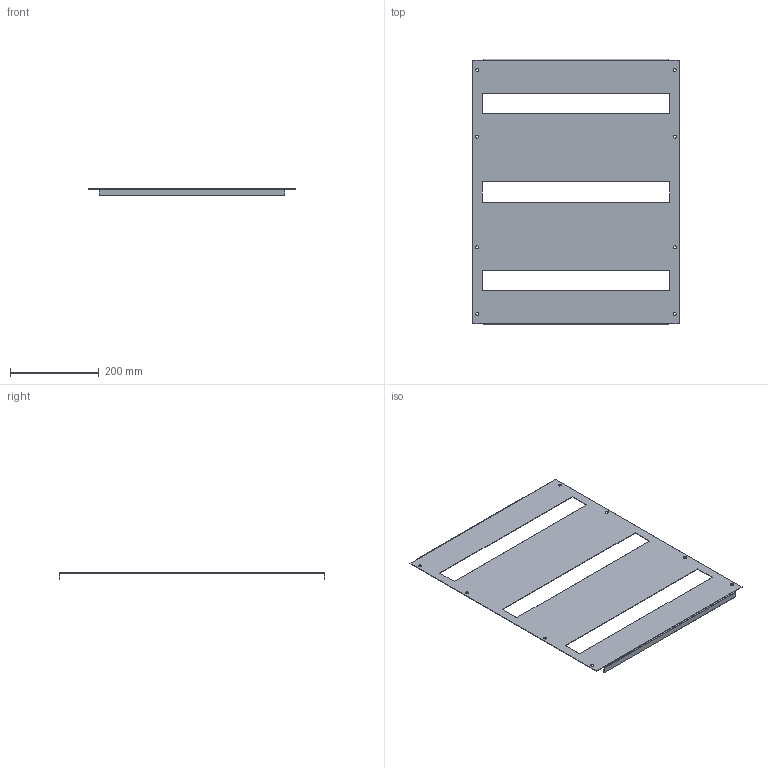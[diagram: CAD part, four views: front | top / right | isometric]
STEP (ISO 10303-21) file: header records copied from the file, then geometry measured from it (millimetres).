
FILE_DESCRIPTION (( 'STEP AP214' ), '1' );
FILE_NAME ('MB 60.50 P Ïàíåëü ìîäóëüíàÿ ñ âûðåçîì.STEP', '2016-07-06T11:01:50', ( '' ), ( '' ), 'SwSTEP 2.0', 'SolidWorks 2012', '' );
FILE_SCHEMA (( 'AUTOMOTIVE_DESIGN' ));
Length unit declared in the file: millimetre
Products named in the file (1): MB 60.50 P Ïàíåëü ìîäóëüíàÿ ñ âûðåçîì
Bounding box: 465 x 599 x 15 mm (x, y, z)
Volume: 276659.2 mm3; surface area: 467302.7 mm2
Topology: 1 solids, 1 shells, 54 faces, 140 edges, 88 vertices
Faces by surface type: plane 34, cylinder 20
Entity records: 1714 total; most frequent: DIRECTION 290, CARTESIAN_POINT 283, ORIENTED_EDGE 280, EDGE_CURVE 140, VECTOR 100, LINE 100, AXIS2_PLACEMENT_3D 95, VERTEX_POINT 88
